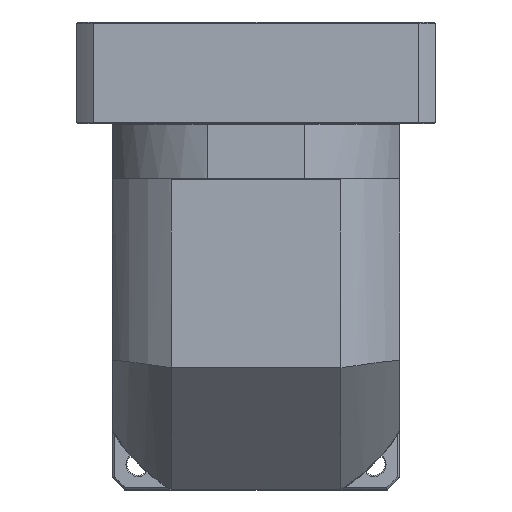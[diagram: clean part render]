
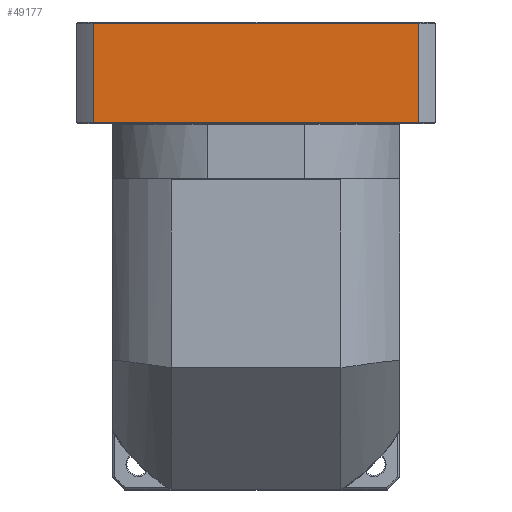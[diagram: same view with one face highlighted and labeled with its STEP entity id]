
A CAD part, top view. The second image highlights one B-rep face of the part: STEP entity #49177.
In plain terms, the highlighted planar face has unit normal (0, 0, 1).
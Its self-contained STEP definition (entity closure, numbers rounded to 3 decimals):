
#3285 = EDGE_CURVE ( 'NONE', #138264, #109658, #80554, .T. ) ;
#6330 = PLANE ( 'NONE',  #53082 ) ;
#10090 = CARTESIAN_POINT ( 'NONE',  ( -197.329, 213.524, 111.614 ) ) ;
#12328 = CARTESIAN_POINT ( 'NONE',  ( -197.329, 214.024, 111.614 ) ) ;
#16546 = CARTESIAN_POINT ( 'NONE',  ( -27.837, 214.024, 111.614 ) ) ;
#25448 = ORIENTED_EDGE ( 'NONE', *, *, #115587, .F. ) ;
#31042 = ORIENTED_EDGE ( 'NONE', *, *, #3285, .F. ) ;
#36665 = FACE_OUTER_BOUND ( 'NONE', #38070, .T. ) ;
#38070 = EDGE_LOOP ( 'NONE', ( #25448, #53495, #31042, #126014 ) ) ;
#44487 = DIRECTION ( 'NONE',  ( 0., 1., 0. ) ) ;
#47862 = VECTOR ( 'NONE', #60039, 1000. ) ;
#49177 = ADVANCED_FACE ( 'NONE', ( #36665 ), #6330, .F. ) ;
#53057 = VERTEX_POINT ( 'NONE', #92939 ) ;
#53082 = AXIS2_PLACEMENT_3D ( 'NONE', #16546, #71590, #103225 ) ;
#53495 = ORIENTED_EDGE ( 'NONE', *, *, #72794, .T. ) ;
#60039 = DIRECTION ( 'NONE',  ( 1., 0., 0. ) ) ;
#61126 = LINE ( 'NONE', #12328, #136017 ) ;
#61372 = VERTEX_POINT ( 'NONE', #10090 ) ;
#62233 = VECTOR ( 'NONE', #100046, 1000. ) ;
#71590 = DIRECTION ( 'NONE',  ( 0., 0., -1. ) ) ;
#72794 = EDGE_CURVE ( 'NONE', #53057, #109658, #111288, .T. ) ;
#80554 = LINE ( 'NONE', #110768, #62233 ) ;
#83522 = DIRECTION ( 'NONE',  ( 1., 0., 0. ) ) ;
#92939 = CARTESIAN_POINT ( 'NONE',  ( -197.329, 164.524, 111.614 ) ) ;
#99155 = CARTESIAN_POINT ( 'NONE',  ( -36.345, 213.524, 111.614 ) ) ;
#100046 = DIRECTION ( 'NONE',  ( 0., -1., 0. ) ) ;
#102869 = CARTESIAN_POINT ( 'NONE',  ( -27.837, 164.524, 111.614 ) ) ;
#103225 = DIRECTION ( 'NONE',  ( 0., -1., 0. ) ) ;
#109658 = VERTEX_POINT ( 'NONE', #116976 ) ;
#110768 = CARTESIAN_POINT ( 'NONE',  ( -36.345, -178.782, 111.614 ) ) ;
#111288 = LINE ( 'NONE', #102869, #47862 ) ;
#115587 = EDGE_CURVE ( 'NONE', #53057, #61372, #61126, .T. ) ;
#116976 = CARTESIAN_POINT ( 'NONE',  ( -36.345, 164.524, 111.614 ) ) ;
#121629 = VECTOR ( 'NONE', #83522, 1000. ) ;
#122191 = CARTESIAN_POINT ( 'NONE',  ( -27.837, 213.524, 111.614 ) ) ;
#123183 = LINE ( 'NONE', #122191, #121629 ) ;
#126014 = ORIENTED_EDGE ( 'NONE', *, *, #137515, .F. ) ;
#136017 = VECTOR ( 'NONE', #44487, 1000. ) ;
#137515 = EDGE_CURVE ( 'NONE', #61372, #138264, #123183, .T. ) ;
#138264 = VERTEX_POINT ( 'NONE', #99155 ) ;
